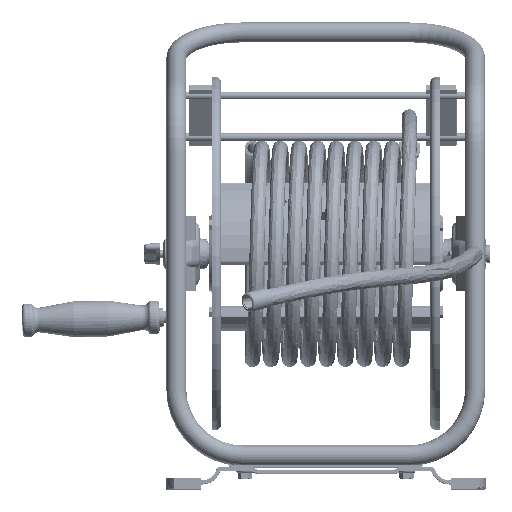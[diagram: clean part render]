
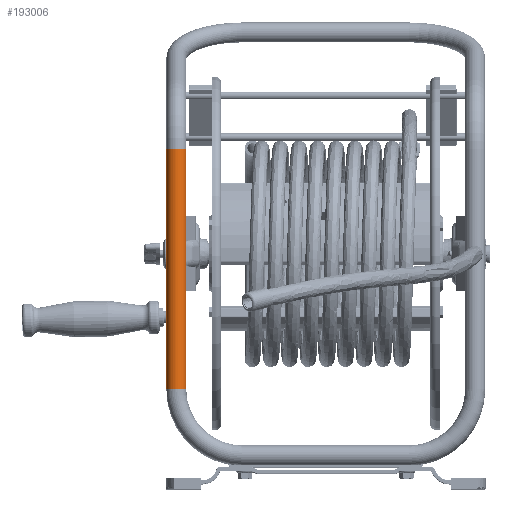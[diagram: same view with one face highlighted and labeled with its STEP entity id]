
A CAD part, top view. The second image highlights one B-rep face of the part: STEP entity #193006.
In plain terms, the highlighted cylindrical face has radius 8 mm (diameter 16 mm), a full revolution.
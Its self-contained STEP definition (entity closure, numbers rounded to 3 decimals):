
#397 = LINE ( 'NONE', #221660, #81424 ) ;
#594 = VECTOR ( 'NONE', #124456, 1000. ) ;
#4555 = CARTESIAN_POINT ( 'NONE',  ( -449.291, 507.563, 581.53 ) ) ;
#8943 = ORIENTED_EDGE ( 'NONE', *, *, #43725, .F. ) ;
#9505 = VERTEX_POINT ( 'NONE', #83985 ) ;
#13099 = VECTOR ( 'NONE', #67184, 1000. ) ;
#14834 = AXIS2_PLACEMENT_3D ( 'NONE', #195942, #17931, #157560 ) ;
#16946 = EDGE_CURVE ( 'NONE', #103574, #256129, #26168, .T. ) ;
#17931 = DIRECTION ( 'NONE',  ( 0., 1., 0. ) ) ;
#18296 = CARTESIAN_POINT ( 'NONE',  ( -449.291, 413.463, 589.53 ) ) ;
#23657 = DIRECTION ( 'NONE',  ( 0., -1., 0. ) ) ;
#25343 = LINE ( 'NONE', #106145, #594 ) ;
#25643 = ORIENTED_EDGE ( 'NONE', *, *, #124526, .T. ) ;
#26168 = CIRCLE ( 'NONE', #111586, 8. ) ;
#28457 = EDGE_CURVE ( 'NONE', #29814, #103574, #25343, .T. ) ;
#29814 = VERTEX_POINT ( 'NONE', #232531 ) ;
#34004 = AXIS2_PLACEMENT_3D ( 'NONE', #55823, #95985, #235450 ) ;
#34420 = ORIENTED_EDGE ( 'NONE', *, *, #202141, .T. ) ;
#42951 = CIRCLE ( 'NONE', #64959, 8. ) ;
#43725 = EDGE_CURVE ( 'NONE', #87528, #87528, #97814, .T. ) ;
#48936 = ORIENTED_EDGE ( 'NONE', *, *, #229103, .T. ) ;
#55823 = CARTESIAN_POINT ( 'NONE',  ( -449.291, 606.169, 581.53 ) ) ;
#60125 = VECTOR ( 'NONE', #256130, 1000. ) ;
#62064 = DIRECTION ( 'NONE',  ( 0., 0., 1. ) ) ;
#64959 = AXIS2_PLACEMENT_3D ( 'NONE', #118282, #157597, #236813 ) ;
#66775 = CIRCLE ( 'NONE', #232084, 8. ) ;
#67184 = DIRECTION ( 'NONE',  ( 0., 1., 0. ) ) ;
#81424 = VECTOR ( 'NONE', #23657, 1000. ) ;
#83985 = CARTESIAN_POINT ( 'NONE',  ( -450.491, 497.363, 573.62 ) ) ;
#87528 = VERTEX_POINT ( 'NONE', #248807 ) ;
#88275 = FACE_BOUND ( 'NONE', #112553, .T. ) ;
#93398 = EDGE_CURVE ( 'NONE', #9505, #29814, #42951, .T. ) ;
#95985 = DIRECTION ( 'NONE',  ( 0., 1., 0. ) ) ;
#97814 = CIRCLE ( 'NONE', #34004, 8. ) ;
#101288 = DIRECTION ( 'NONE',  ( 0., 0., 1. ) ) ;
#103574 = VERTEX_POINT ( 'NONE', #140131 ) ;
#106145 = CARTESIAN_POINT ( 'NONE',  ( -448.091, 413.463, 573.62 ) ) ;
#107250 = EDGE_CURVE ( 'NONE', #145859, #145859, #222512, .T. ) ;
#111586 = AXIS2_PLACEMENT_3D ( 'NONE', #4555, #199815, #62064 ) ;
#112553 = EDGE_LOOP ( 'NONE', ( #34420, #25643, #187307, #214763 ) ) ;
#115850 = EDGE_LOOP ( 'NONE', ( #210314, #171633, #48936, #160379 ) ) ;
#118282 = CARTESIAN_POINT ( 'NONE',  ( -449.291, 497.363, 581.53 ) ) ;
#118798 = DIRECTION ( 'NONE',  ( 0., 1., 0. ) ) ;
#121135 = CARTESIAN_POINT ( 'NONE',  ( -449.291, 413.463, 581.53 ) ) ;
#122567 = EDGE_LOOP ( 'NONE', ( #8943 ) ) ;
#124456 = DIRECTION ( 'NONE',  ( 0., 1., 0. ) ) ;
#124526 = EDGE_CURVE ( 'NONE', #226976, #240559, #134654, .T. ) ;
#131105 = CARTESIAN_POINT ( 'NONE',  ( -449.291, 537.363, 581.53 ) ) ;
#134654 = LINE ( 'NONE', #244932, #13099 ) ;
#138202 = ORIENTED_EDGE ( 'NONE', *, *, #107250, .T. ) ;
#140131 = CARTESIAN_POINT ( 'NONE',  ( -448.091, 507.563, 573.62 ) ) ;
#140784 = CARTESIAN_POINT ( 'NONE',  ( -448.091, 537.363, 573.62 ) ) ;
#145859 = VERTEX_POINT ( 'NONE', #18296 ) ;
#152902 = DIRECTION ( 'NONE',  ( 0., -1., 0. ) ) ;
#157560 = DIRECTION ( 'NONE',  ( 1., 0., 0. ) ) ;
#157597 = DIRECTION ( 'NONE',  ( 0., -1., 0. ) ) ;
#160379 = ORIENTED_EDGE ( 'NONE', *, *, #93398, .T. ) ;
#161333 = AXIS2_PLACEMENT_3D ( 'NONE', #220845, #118798, #101288 ) ;
#170973 = VERTEX_POINT ( 'NONE', #255595 ) ;
#171633 = ORIENTED_EDGE ( 'NONE', *, *, #16946, .T. ) ;
#172309 = CARTESIAN_POINT ( 'NONE',  ( -448.091, 547.563, 573.62 ) ) ;
#173891 = VERTEX_POINT ( 'NONE', #191873 ) ;
#180857 = CIRCLE ( 'NONE', #161333, 8. ) ;
#187307 = ORIENTED_EDGE ( 'NONE', *, *, #210512, .T. ) ;
#191873 = CARTESIAN_POINT ( 'NONE',  ( -450.491, 537.363, 573.62 ) ) ;
#193006 = ADVANCED_FACE ( 'NONE', ( #197639, #194446, #88275, #234862 ), #219194, .T. ) ;
#193062 = DIRECTION ( 'NONE',  ( 0., 0., -1. ) ) ;
#194446 = FACE_OUTER_BOUND ( 'NONE', #122567, .T. ) ;
#195942 = CARTESIAN_POINT ( 'NONE',  ( -449.291, 413.463, 581.53 ) ) ;
#196095 = CARTESIAN_POINT ( 'NONE',  ( -450.491, 413.463, 573.62 ) ) ;
#197639 = FACE_OUTER_BOUND ( 'NONE', #241304, .T. ) ;
#199815 = DIRECTION ( 'NONE',  ( 0., 1., 0. ) ) ;
#202141 = EDGE_CURVE ( 'NONE', #173891, #226976, #66775, .T. ) ;
#206865 = EDGE_CURVE ( 'NONE', #170973, #173891, #231762, .T. ) ;
#210314 = ORIENTED_EDGE ( 'NONE', *, *, #28457, .T. ) ;
#210512 = EDGE_CURVE ( 'NONE', #240559, #170973, #180857, .T. ) ;
#214570 = CARTESIAN_POINT ( 'NONE',  ( -450.491, 507.563, 573.62 ) ) ;
#214763 = ORIENTED_EDGE ( 'NONE', *, *, #206865, .T. ) ;
#219194 = CYLINDRICAL_SURFACE ( 'NONE', #14834, 8. ) ;
#220845 = CARTESIAN_POINT ( 'NONE',  ( -449.291, 547.563, 581.53 ) ) ;
#221458 = DIRECTION ( 'NONE',  ( 0., 0., 1. ) ) ;
#221660 = CARTESIAN_POINT ( 'NONE',  ( -450.491, 413.463, 573.62 ) ) ;
#222327 = DIRECTION ( 'NONE',  ( 0., 1., 0. ) ) ;
#222512 = CIRCLE ( 'NONE', #229339, 8. ) ;
#226976 = VERTEX_POINT ( 'NONE', #140784 ) ;
#229103 = EDGE_CURVE ( 'NONE', #256129, #9505, #397, .T. ) ;
#229339 = AXIS2_PLACEMENT_3D ( 'NONE', #121135, #222327, #221458 ) ;
#231762 = LINE ( 'NONE', #196095, #60125 ) ;
#232084 = AXIS2_PLACEMENT_3D ( 'NONE', #131105, #152902, #193062 ) ;
#232531 = CARTESIAN_POINT ( 'NONE',  ( -448.091, 497.363, 573.62 ) ) ;
#234862 = FACE_BOUND ( 'NONE', #115850, .T. ) ;
#235450 = DIRECTION ( 'NONE',  ( 0., 0., 1. ) ) ;
#236813 = DIRECTION ( 'NONE',  ( 1., 0., 0. ) ) ;
#240559 = VERTEX_POINT ( 'NONE', #172309 ) ;
#241304 = EDGE_LOOP ( 'NONE', ( #138202 ) ) ;
#244932 = CARTESIAN_POINT ( 'NONE',  ( -448.091, 413.463, 573.62 ) ) ;
#248807 = CARTESIAN_POINT ( 'NONE',  ( -449.291, 606.169, 589.53 ) ) ;
#255595 = CARTESIAN_POINT ( 'NONE',  ( -450.491, 547.563, 573.62 ) ) ;
#256129 = VERTEX_POINT ( 'NONE', #214570 ) ;
#256130 = DIRECTION ( 'NONE',  ( 0., -1., 0. ) ) ;
